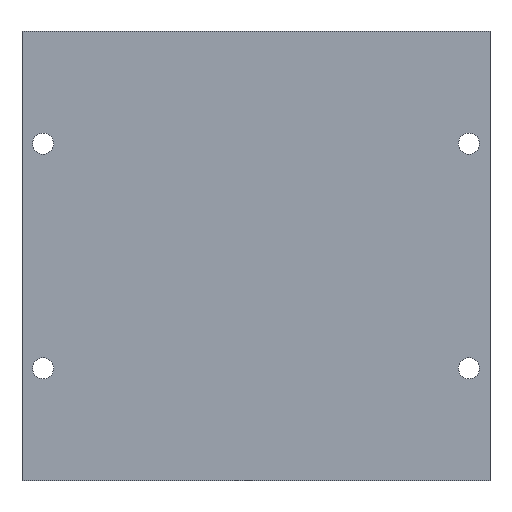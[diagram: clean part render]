
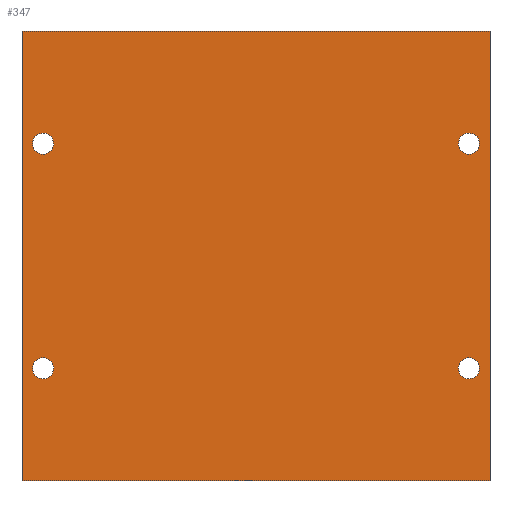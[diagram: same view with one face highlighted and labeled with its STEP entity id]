
A CAD part, front view. The second image highlights one B-rep face of the part: STEP entity #347.
In plain terms, the highlighted planar face has unit normal (0, -1, 0).
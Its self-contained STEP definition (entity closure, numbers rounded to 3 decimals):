
#1 = CARTESIAN_POINT ( 'NONE',  ( -45.5, -3., 72. ) ) ;
#10 = DIRECTION ( 'NONE',  ( 1., 0., 0. ) ) ;
#17 = ORIENTED_EDGE ( 'NONE', *, *, #361, .T. ) ;
#26 = VERTEX_POINT ( 'NONE', #563 ) ;
#33 = ORIENTED_EDGE ( 'NONE', *, *, #55, .T. ) ;
#34 = ORIENTED_EDGE ( 'NONE', *, *, #294, .F. ) ;
#55 = EDGE_CURVE ( 'NONE', #107, #128, #555, .T. ) ;
#60 = VERTEX_POINT ( 'NONE', #80 ) ;
#62 = LINE ( 'NONE', #581, #247 ) ;
#63 = PLANE ( 'NONE',  #412 ) ;
#67 = CIRCLE ( 'NONE', #328, 2.25 ) ;
#80 = CARTESIAN_POINT ( 'NONE',  ( 50., -3., 96. ) ) ;
#83 = CARTESIAN_POINT ( 'NONE',  ( -45.5, -3., 74.25 ) ) ;
#87 = AXIS2_PLACEMENT_3D ( 'NONE', #203, #499, #239 ) ;
#90 = CARTESIAN_POINT ( 'NONE',  ( 50., -3., 96. ) ) ;
#92 = EDGE_LOOP ( 'NONE', ( #488, #605 ) ) ;
#97 = CARTESIAN_POINT ( 'NONE',  ( -45.5, -3., 21.75 ) ) ;
#103 = DIRECTION ( 'NONE',  ( 0., 1., 0. ) ) ;
#107 = VERTEX_POINT ( 'NONE', #179 ) ;
#109 = CARTESIAN_POINT ( 'NONE',  ( 50., -3., 0. ) ) ;
#112 = DIRECTION ( 'NONE',  ( 0., 0., 1. ) ) ;
#117 = FACE_BOUND ( 'NONE', #287, .T. ) ;
#127 = LINE ( 'NONE', #90, #504 ) ;
#128 = VERTEX_POINT ( 'NONE', #621 ) ;
#138 = DIRECTION ( 'NONE',  ( 0., 0., 1. ) ) ;
#139 = DIRECTION ( 'NONE',  ( 0., 1., 0. ) ) ;
#158 = DIRECTION ( 'NONE',  ( -1., 0., 0. ) ) ;
#169 = CARTESIAN_POINT ( 'NONE',  ( 45.5, -3., 24. ) ) ;
#170 = VECTOR ( 'NONE', #606, 1000. ) ;
#172 = FACE_BOUND ( 'NONE', #562, .T. ) ;
#179 = CARTESIAN_POINT ( 'NONE',  ( 45.5, -3., 74.25 ) ) ;
#182 = DIRECTION ( 'NONE',  ( 0., 1., 0. ) ) ;
#184 = EDGE_CURVE ( 'NONE', #60, #381, #127, .T. ) ;
#197 = DIRECTION ( 'NONE',  ( 0., 0., 1. ) ) ;
#199 = EDGE_CURVE ( 'NONE', #272, #390, #231, .T. ) ;
#203 = CARTESIAN_POINT ( 'NONE',  ( 45.5, -3., 24. ) ) ;
#207 = VERTEX_POINT ( 'NONE', #83 ) ;
#212 = EDGE_CURVE ( 'NONE', #582, #207, #67, .T. ) ;
#220 = DIRECTION ( 'NONE',  ( 0., 0., 1. ) ) ;
#223 = VERTEX_POINT ( 'NONE', #233 ) ;
#231 = CIRCLE ( 'NONE', #560, 2.25 ) ;
#233 = CARTESIAN_POINT ( 'NONE',  ( -50., -3., 96. ) ) ;
#234 = DIRECTION ( 'NONE',  ( 0., 1., 0. ) ) ;
#235 = ORIENTED_EDGE ( 'NONE', *, *, #479, .T. ) ;
#239 = DIRECTION ( 'NONE',  ( 0., 0., 1. ) ) ;
#242 = EDGE_LOOP ( 'NONE', ( #33, #296 ) ) ;
#246 = CIRCLE ( 'NONE', #434, 2.25 ) ;
#247 = VECTOR ( 'NONE', #629, 1000. ) ;
#261 = CARTESIAN_POINT ( 'NONE',  ( -45.5, -3., 69.75 ) ) ;
#272 = VERTEX_POINT ( 'NONE', #97 ) ;
#273 = ORIENTED_EDGE ( 'NONE', *, *, #199, .T. ) ;
#274 = EDGE_CURVE ( 'NONE', #207, #582, #276, .T. ) ;
#276 = CIRCLE ( 'NONE', #591, 2.25 ) ;
#287 = EDGE_LOOP ( 'NONE', ( #395, #273 ) ) ;
#293 = AXIS2_PLACEMENT_3D ( 'NONE', #367, #615, #220 ) ;
#294 = EDGE_CURVE ( 'NONE', #223, #60, #62, .T. ) ;
#296 = ORIENTED_EDGE ( 'NONE', *, *, #371, .T. ) ;
#299 = CARTESIAN_POINT ( 'NONE',  ( 45.5, -3., 26.25 ) ) ;
#302 = CARTESIAN_POINT ( 'NONE',  ( -50., -3., 96. ) ) ;
#328 = AXIS2_PLACEMENT_3D ( 'NONE', #430, #234, #197 ) ;
#336 = VECTOR ( 'NONE', #10, 1000. ) ;
#339 = DIRECTION ( 'NONE',  ( 0., 1., 0. ) ) ;
#343 = DIRECTION ( 'NONE',  ( 0., 0., 1. ) ) ;
#344 = CIRCLE ( 'NONE', #293, 2.25 ) ;
#347 = ADVANCED_FACE ( 'NONE', ( #570, #376, #117, #172, #623 ), #63, .F. ) ;
#355 = CIRCLE ( 'NONE', #87, 2.25 ) ;
#361 = EDGE_CURVE ( 'NONE', #26, #381, #477, .T. ) ;
#367 = CARTESIAN_POINT ( 'NONE',  ( -45.5, -3., 24. ) ) ;
#370 = CARTESIAN_POINT ( 'NONE',  ( 45.5, -3., 72. ) ) ;
#371 = EDGE_CURVE ( 'NONE', #128, #107, #440, .T. ) ;
#376 = FACE_BOUND ( 'NONE', #242, .T. ) ;
#379 = DIRECTION ( 'NONE',  ( 0., 0., 1. ) ) ;
#381 = VERTEX_POINT ( 'NONE', #109 ) ;
#382 = EDGE_CURVE ( 'NONE', #416, #446, #355, .T. ) ;
#390 = VERTEX_POINT ( 'NONE', #501 ) ;
#394 = CARTESIAN_POINT ( 'NONE',  ( 50., -3., 96. ) ) ;
#395 = ORIENTED_EDGE ( 'NONE', *, *, #569, .T. ) ;
#405 = DIRECTION ( 'NONE',  ( 0., 1., 0. ) ) ;
#412 = AXIS2_PLACEMENT_3D ( 'NONE', #394, #339, #158 ) ;
#416 = VERTEX_POINT ( 'NONE', #299 ) ;
#430 = CARTESIAN_POINT ( 'NONE',  ( -45.5, -3., 72. ) ) ;
#433 = DIRECTION ( 'NONE',  ( 0., 1., 0. ) ) ;
#434 = AXIS2_PLACEMENT_3D ( 'NONE', #169, #405, #112 ) ;
#440 = CIRCLE ( 'NONE', #517, 2.25 ) ;
#441 = CARTESIAN_POINT ( 'NONE',  ( 45.5, -3., 72. ) ) ;
#446 = VERTEX_POINT ( 'NONE', #510 ) ;
#477 = LINE ( 'NONE', #600, #336 ) ;
#479 = EDGE_CURVE ( 'NONE', #223, #26, #542, .T. ) ;
#488 = ORIENTED_EDGE ( 'NONE', *, *, #274, .T. ) ;
#492 = AXIS2_PLACEMENT_3D ( 'NONE', #370, #182, #572 ) ;
#497 = ORIENTED_EDGE ( 'NONE', *, *, #515, .T. ) ;
#498 = ORIENTED_EDGE ( 'NONE', *, *, #184, .F. ) ;
#499 = DIRECTION ( 'NONE',  ( 0., 1., 0. ) ) ;
#501 = CARTESIAN_POINT ( 'NONE',  ( -45.5, -3., 26.25 ) ) ;
#504 = VECTOR ( 'NONE', #617, 1000. ) ;
#510 = CARTESIAN_POINT ( 'NONE',  ( 45.5, -3., 21.75 ) ) ;
#514 = EDGE_LOOP ( 'NONE', ( #17, #498, #34, #235 ) ) ;
#515 = EDGE_CURVE ( 'NONE', #446, #416, #246, .T. ) ;
#517 = AXIS2_PLACEMENT_3D ( 'NONE', #441, #103, #343 ) ;
#537 = CARTESIAN_POINT ( 'NONE',  ( -45.5, -3., 24. ) ) ;
#542 = LINE ( 'NONE', #302, #170 ) ;
#555 = CIRCLE ( 'NONE', #492, 2.25 ) ;
#560 = AXIS2_PLACEMENT_3D ( 'NONE', #537, #139, #379 ) ;
#562 = EDGE_LOOP ( 'NONE', ( #583, #497 ) ) ;
#563 = CARTESIAN_POINT ( 'NONE',  ( -50., -3., 0. ) ) ;
#569 = EDGE_CURVE ( 'NONE', #390, #272, #344, .T. ) ;
#570 = FACE_BOUND ( 'NONE', #92, .T. ) ;
#572 = DIRECTION ( 'NONE',  ( 0., 0., 1. ) ) ;
#581 = CARTESIAN_POINT ( 'NONE',  ( 50., -3., 96. ) ) ;
#582 = VERTEX_POINT ( 'NONE', #261 ) ;
#583 = ORIENTED_EDGE ( 'NONE', *, *, #382, .T. ) ;
#591 = AXIS2_PLACEMENT_3D ( 'NONE', #1, #433, #138 ) ;
#600 = CARTESIAN_POINT ( 'NONE',  ( 50., -3., 0. ) ) ;
#605 = ORIENTED_EDGE ( 'NONE', *, *, #212, .T. ) ;
#606 = DIRECTION ( 'NONE',  ( 0., 0., -1. ) ) ;
#615 = DIRECTION ( 'NONE',  ( 0., 1., 0. ) ) ;
#617 = DIRECTION ( 'NONE',  ( 0., 0., -1. ) ) ;
#621 = CARTESIAN_POINT ( 'NONE',  ( 45.5, -3., 69.75 ) ) ;
#623 = FACE_OUTER_BOUND ( 'NONE', #514, .T. ) ;
#629 = DIRECTION ( 'NONE',  ( 1., 0., 0. ) ) ;
